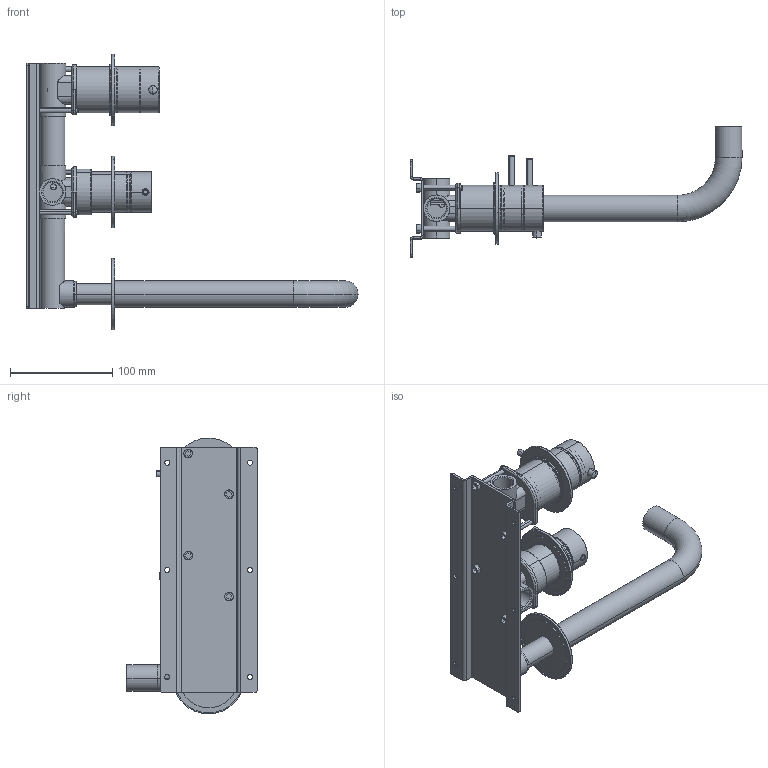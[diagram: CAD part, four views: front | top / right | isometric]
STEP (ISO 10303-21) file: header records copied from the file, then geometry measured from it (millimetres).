
FILE_DESCRIPTION (( 'STEP AP203' ), '1' );
FILE_NAME ('ENS5.STEP', '2024-05-14T12:06:07', ( '' ), ( '' ), 'SwSTEP 2.0', 'SolidWorks 2023', '' );
FILE_SCHEMA (( 'CONFIG_CONTROL_DESIGN' ));
Length unit declared in the file: millimetre
Products named in the file (45): C47.00.0023.01; C39.00.0033; 1174G; C24.1457.00.2; C24.1887.00.0; C12.00.0036; C24.0075.00.0; C10.00.0017; RIDUTTORE PER CARTUCCIA; A061 18 00 00-Cover cap; C24.1456.00.0; EROGATORE VASCA E DOCCIA; GUARNIZIONE PER SPESSORE CARTUCCIA; ADATTATORE MEZZO; C11.10.0022; C10.00.0024; C24.2664.00; C25.0814.00.0; C50.00.0034.00; C12.00.0017; C12.00.0043; TUBO DI GIUNZIONE VASCA E DOCCIA; C21.0620.00.0; C47.00.0076.00; C24.0705.00.0; C21.0615.00.0; C24.2724.00; ORING Ø 28 X 1,5; AS535_00; C23.1878.01; C24.2666.00; ISN81; C10.00.0011; C18.13.0006.01; C12.00.0008; C11.14.0003; AS1041_00; C11.14.0009; ENS5; C24.2712.00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
Assembly tree (53 placements, depth 4):
  ENS5
    ISN81
      C50.00.0034.00
        1174G  x2
        EROGATORE VASCA E DOCCIA
        TUBO DI GIUNZIONE VASCA E DOCCIA
        ADATTATORE MEZZO
      C24.1966.00.0
      C25.1964.00.0
      C12.00.0008
      C12.00.0017  x2
      C50.00.0013
        RIDUTTORE PER CARTUCCIA
        GUARNIZIONE PER SPESSORE CARTUCCIA
      C10.00.0011
      C11.10.0022  x4
      C10.00.0017
    AS1041_00
      C24.2588.00.1
      C23.1878.01
      C11.14.0009
      C47.00.0023.01
      C11.14.0003  x2
      C24.0705.00.0
    C12.00.0036
    C24.2664.00
    C24.2712.00
    C24.2724.00
    C24.0075.00.0
    C18.13.0006.01
      A061 18 00 00-Cover cap
      ORING Ø 28 X 1,5
    AS535_00
      C24.1457.00.2
      C25.0814.00.0
      C11.14.0013
      C11.14.0009
      C47.00.0023.01
      C47.00.0076.00
    C10.00.0024
    C21.0615.00.0
    C24.1887.00.0
    C24.1456.00.0
    C21.0620.00.0
    C24.0705.00.0
    C24.2666.00
    C12.00.0043
    C39.00.0033
Bounding box: 325 x 127.5 x 269.9 mm (x, y, z)
Volume: 482112.8 mm3; surface area: 286184 mm2
Topology: 55 solids, 56 shells, 2704 faces, 6804 edges, 4334 vertices
Faces by surface type: plane 1248, cylinder 961, cone 242, torus 147, bspline 104, sphere 2
Entity records: 87174 total; most frequent: CARTESIAN_POINT 22196, DIRECTION 12708, ORIENTED_EDGE 12486, EDGE_CURVE 6243, AXIS2_PLACEMENT_3D 4710, VERTEX_POINT 3994, VECTOR 3288, LINE 3288
